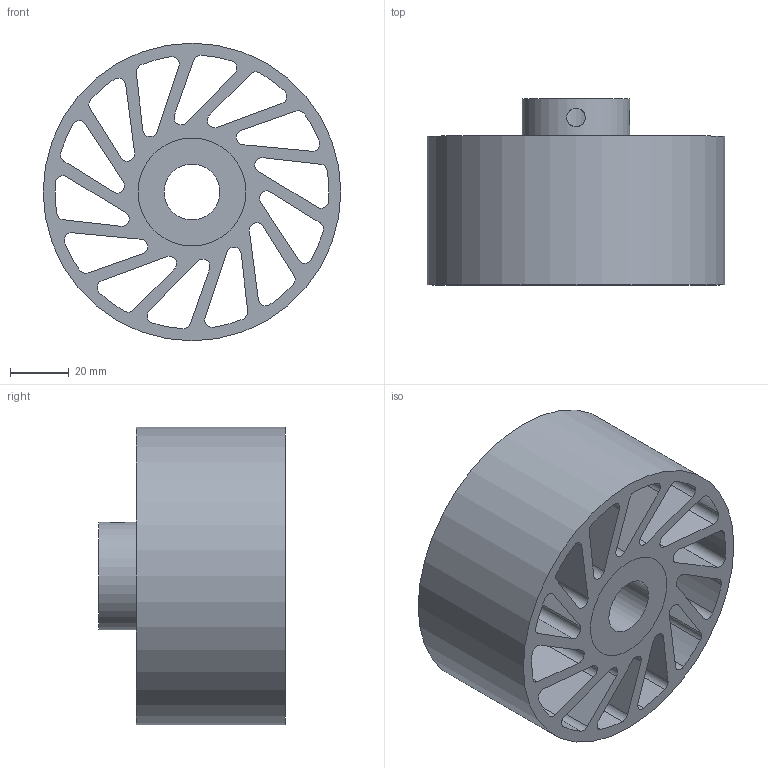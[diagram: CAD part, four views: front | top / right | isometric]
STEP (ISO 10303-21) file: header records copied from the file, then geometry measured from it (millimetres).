
FILE_DESCRIPTION(/* description */ (''),/* implementation_level */ '2;1');
FILE_NAME(/* name */ 'NCW-420-XXX-YYY.stp',/* time_stamp */ '2023-02-02T15:09:19-06:00',/* author */ ('AG'),/* organization */ ('Meridian Laboratory'),/* preprocessor_version */ 'ST-DEVELOPER v18.1',/* originating_system */ 'Autodesk Inventor 2022',/* authorisation */ '');
FILE_SCHEMA (('AUTOMOTIVE_DESIGN { 1 0 10303 214 3 1 1 }'));
Length unit declared in the file: inch
Products named in the file (1): NCW-340
Bounding box: 101.6 x 63.5 x 101.6 mm (x, y, z)
Volume: 225750.3 mm3; surface area: 91199.1 mm2
Topology: 2 solids, 2 shells, 94 faces, 276 edges, 186 vertices
Faces by surface type: cylinder 62, plane 32
Full cylindrical faces by diameter (mm): 6.35 x2, 19.075 x1, 36.83 x2, 101.6 x1
Entity records: 3530 total; most frequent: CARTESIAN_POINT 697, DIRECTION 576, ORIENTED_EDGE 552, EDGE_CURVE 276, AXIS2_PLACEMENT_3D 215, VERTEX_POINT 186, LINE 146, VECTOR 146
